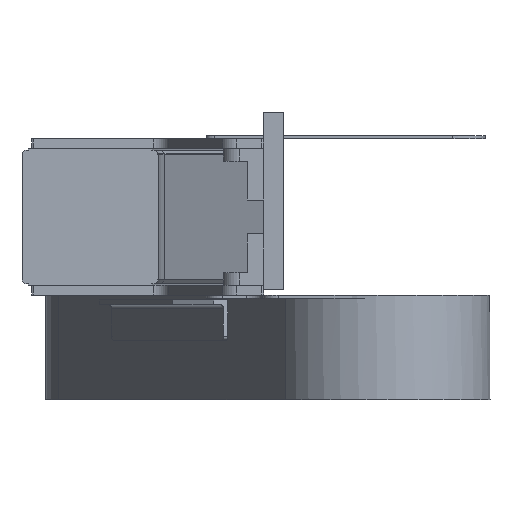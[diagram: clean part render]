
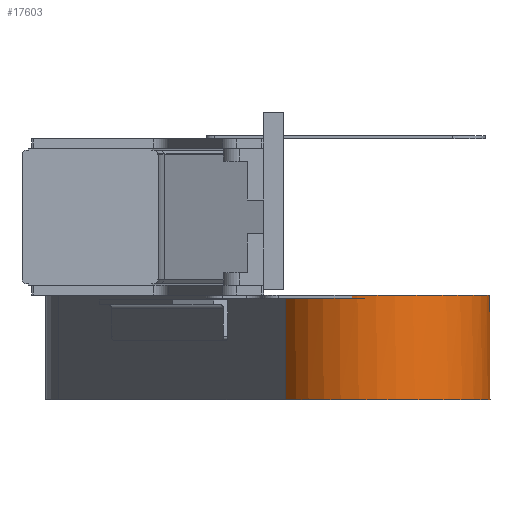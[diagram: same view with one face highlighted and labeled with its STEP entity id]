
A CAD part, left-side view. The second image highlights one B-rep face of the part: STEP entity #17603.
In plain terms, the highlighted cylindrical face has radius 67.5 mm (diameter 135 mm), a partial arc.
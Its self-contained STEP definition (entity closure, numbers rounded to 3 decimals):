
#61 = DIRECTION ( 'NONE',  ( 0., 0., 1. ) ) ;
#1653 = CARTESIAN_POINT ( 'NONE',  ( -264.884, -140.841, -113.5 ) ) ;
#1814 = VERTEX_POINT ( 'NONE', #9532 ) ;
#2297 = VECTOR ( 'NONE', #12907, 1000. ) ;
#3059 = VERTEX_POINT ( 'NONE', #4358 ) ;
#3559 = DIRECTION ( 'NONE',  ( 0., 0., 1. ) ) ;
#3573 = VERTEX_POINT ( 'NONE', #6351 ) ;
#4201 = EDGE_CURVE ( 'NONE', #17531, #1814, #6656, .T. ) ;
#4358 = CARTESIAN_POINT ( 'NONE',  ( -233.195, -200.44, -113.5 ) ) ;
#4424 = ORIENTED_EDGE ( 'NONE', *, *, #7727, .F. ) ;
#4732 = EDGE_CURVE ( 'NONE', #6886, #17531, #17004, .T. ) ;
#5011 = FACE_OUTER_BOUND ( 'NONE', #9778, .T. ) ;
#5176 = VERTEX_POINT ( 'NONE', #8144 ) ;
#5513 = EDGE_CURVE ( 'NONE', #6886, #3059, #9878, .T. ) ;
#5936 = DIRECTION ( 'NONE',  ( 0., 0., 1. ) ) ;
#6000 = ORIENTED_EDGE ( 'NONE', *, *, #5513, .T. ) ;
#6351 = CARTESIAN_POINT ( 'NONE',  ( -258.058, -207.995, -56. ) ) ;
#6485 = ORIENTED_EDGE ( 'NONE', *, *, #4201, .F. ) ;
#6656 = CIRCLE ( 'NONE', #19666, 67.5 ) ;
#6857 = ORIENTED_EDGE ( 'NONE', *, *, #15257, .T. ) ;
#6886 = VERTEX_POINT ( 'NONE', #19942 ) ;
#7073 = AXIS2_PLACEMENT_3D ( 'NONE', #17743, #17597, #19292 ) ;
#7583 = VECTOR ( 'NONE', #5936, 1000. ) ;
#7727 = EDGE_CURVE ( 'NONE', #3573, #5176, #17770, .T. ) ;
#8144 = CARTESIAN_POINT ( 'NONE',  ( -233.195, -200.44, -56. ) ) ;
#8514 = DIRECTION ( 'NONE',  ( 1., 0., 0. ) ) ;
#8569 = DIRECTION ( 'NONE',  ( 1., 0., 0. ) ) ;
#9532 = CARTESIAN_POINT ( 'NONE',  ( -258.058, -207.995, -48.5 ) ) ;
#9778 = EDGE_LOOP ( 'NONE', ( #6857, #6485, #16044, #6000, #20407, #4424 ) ) ;
#9878 = CIRCLE ( 'NONE', #7073, 67.5 ) ;
#11817 = VECTOR ( 'NONE', #14804, 1000. ) ;
#12382 = CARTESIAN_POINT ( 'NONE',  ( -258.058, -207.995, -56. ) ) ;
#12907 = DIRECTION ( 'NONE',  ( 0., 0., 1. ) ) ;
#13186 = CARTESIAN_POINT ( 'NONE',  ( -296.574, -81.243, -48.5 ) ) ;
#13962 = AXIS2_PLACEMENT_3D ( 'NONE', #20122, #3559, #8514 ) ;
#14325 = CYLINDRICAL_SURFACE ( 'NONE', #15122, 67.5 ) ;
#14464 = EDGE_CURVE ( 'NONE', #3059, #5176, #20223, .T. ) ;
#14804 = DIRECTION ( 'NONE',  ( 0., 0., 1. ) ) ;
#15122 = AXIS2_PLACEMENT_3D ( 'NONE', #1653, #61, #19733 ) ;
#15257 = EDGE_CURVE ( 'NONE', #3573, #1814, #20553, .T. ) ;
#16044 = ORIENTED_EDGE ( 'NONE', *, *, #4732, .F. ) ;
#16105 = CARTESIAN_POINT ( 'NONE',  ( -233.195, -200.44, -113.5 ) ) ;
#16416 = CARTESIAN_POINT ( 'NONE',  ( -296.574, -81.243, -113.5 ) ) ;
#17004 = LINE ( 'NONE', #16416, #11817 ) ;
#17531 = VERTEX_POINT ( 'NONE', #13186 ) ;
#17597 = DIRECTION ( 'NONE',  ( 0., 0., 1. ) ) ;
#17603 = ADVANCED_FACE ( 'NONE', ( #5011 ), #14325, .T. ) ;
#17743 = CARTESIAN_POINT ( 'NONE',  ( -264.884, -140.841, -113.5 ) ) ;
#17770 = CIRCLE ( 'NONE', #13962, 67.5 ) ;
#19292 = DIRECTION ( 'NONE',  ( 1., 0., 0. ) ) ;
#19666 = AXIS2_PLACEMENT_3D ( 'NONE', #19970, #20255, #8569 ) ;
#19733 = DIRECTION ( 'NONE',  ( 1., 0., 0. ) ) ;
#19942 = CARTESIAN_POINT ( 'NONE',  ( -296.574, -81.243, -113.5 ) ) ;
#19970 = CARTESIAN_POINT ( 'NONE',  ( -264.884, -140.841, -48.5 ) ) ;
#20122 = CARTESIAN_POINT ( 'NONE',  ( -264.884, -140.841, -56. ) ) ;
#20223 = LINE ( 'NONE', #16105, #2297 ) ;
#20255 = DIRECTION ( 'NONE',  ( 0., 0., 1. ) ) ;
#20407 = ORIENTED_EDGE ( 'NONE', *, *, #14464, .T. ) ;
#20553 = LINE ( 'NONE', #12382, #7583 ) ;
